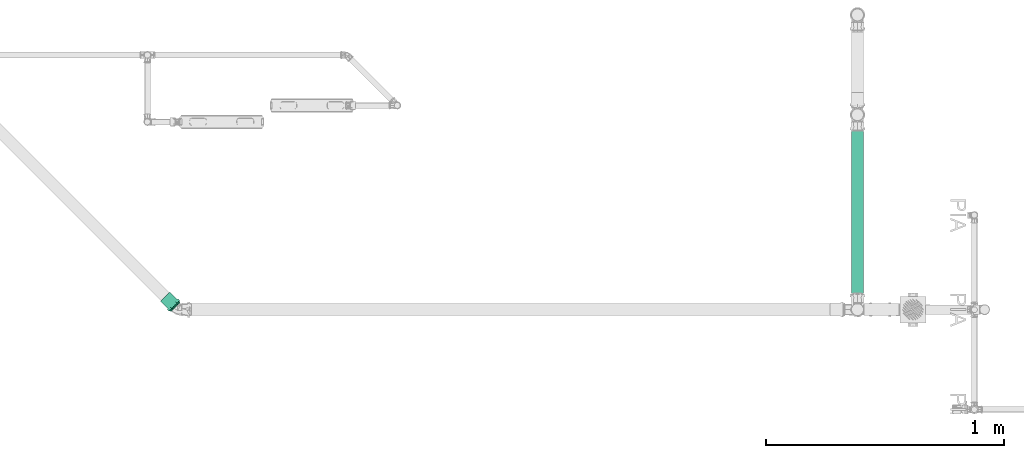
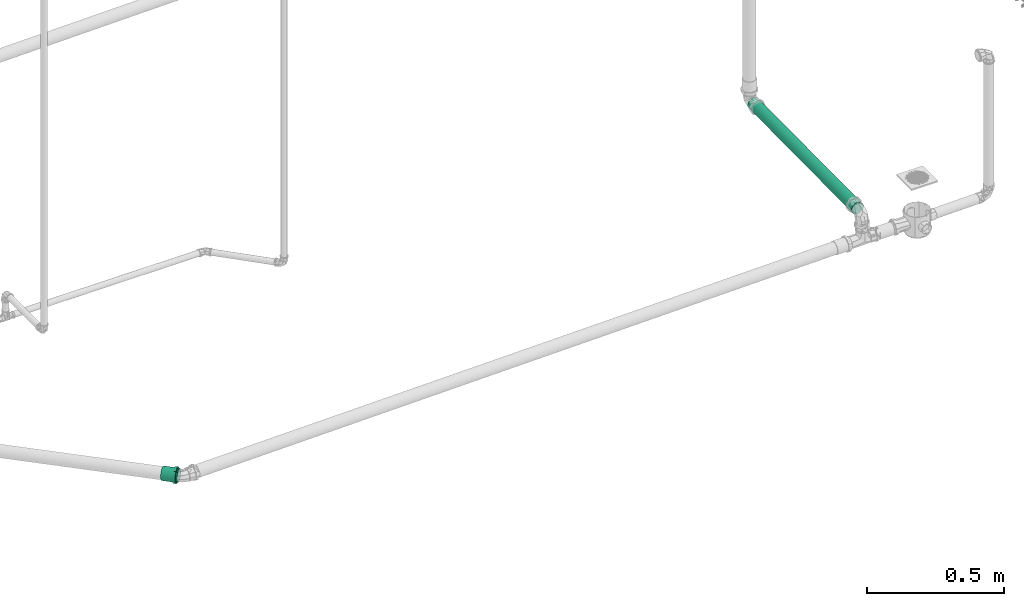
# One storey, part 110 of 589: 1 flow fitting, 1 flow segment.
"""IFC2X3 building model written with IfcOpenShell, lengths in millimetres."""

from ifc_helpers import new_model, entity, si_unit, converted_unit, derived_unit, direction, frame, frame_2d, origin, place, context, subcontext, project, spatial, circle, extrude, faceted_brep, source, transform, mapped, material, type_object, type_shapes, element, save


model = new_model("IFC2X3")

# Units and contexts
model_context = context("Model", 3, precision=0.01, world=origin(), true_north=direction((6.123031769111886e-17, 1.0)))
body_context = subcontext(model_context, "Body", "Model", "MODEL_VIEW")
ifc_project = project(units=[si_unit("LENGTHUNIT", "METRE", prefix="MILLI"), si_unit("AREAUNIT", "SQUARE_METRE"), si_unit("VOLUMEUNIT", "CUBIC_METRE"), converted_unit("PLANEANGLEUNIT", "DEGREE", entity("IfcRatioMeasure", 0.017453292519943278), si_unit("PLANEANGLEUNIT", "RADIAN"), dimensions=[0, 0, 0, 0, 0, 0, 0]), si_unit("MASSUNIT", "GRAM", prefix="KILO"), derived_unit("MASSDENSITYUNIT", [(si_unit("MASSUNIT", "GRAM", prefix="KILO"), 1), (si_unit("LENGTHUNIT", "METRE"), -3)]), derived_unit("IONCONCENTRATIONUNIT", [(si_unit("MASSUNIT", "GRAM", prefix="KILO"), 1), (si_unit("LENGTHUNIT", "METRE"), -3)]), derived_unit("MOMENTOFINERTIAUNIT", [(si_unit("LENGTHUNIT", "METRE"), 4)]), si_unit("TIMEUNIT", "SECOND"), si_unit("FREQUENCYUNIT", "HERTZ"), si_unit("THERMODYNAMICTEMPERATUREUNIT", "DEGREE_CELSIUS"), derived_unit("THERMALTRANSMITTANCEUNIT", [(si_unit("MASSUNIT", "GRAM", prefix="KILO"), 1), (si_unit("THERMODYNAMICTEMPERATUREUNIT", "KELVIN"), -1), (si_unit("TIMEUNIT", "SECOND"), -3)]), derived_unit("THERMALCONDUCTANCEUNIT", [(si_unit("MASSUNIT", "GRAM", prefix="KILO"), 1), (si_unit("THERMODYNAMICTEMPERATUREUNIT", "KELVIN"), -1), (si_unit("TIMEUNIT", "SECOND"), -3), (si_unit("LENGTHUNIT", "METRE"), 1)]), derived_unit("VOLUMETRICFLOWRATEUNIT", [(si_unit("LENGTHUNIT", "METRE"), 3), (si_unit("TIMEUNIT", "SECOND"), -1)]), derived_unit("MASSFLOWRATEUNIT", [(si_unit("MASSUNIT", "GRAM", prefix="KILO"), 1), (si_unit("TIMEUNIT", "SECOND"), -1)]), derived_unit("ROTATIONALFREQUENCYUNIT", [(si_unit("TIMEUNIT", "SECOND"), -1)]), si_unit("ELECTRICCURRENTUNIT", "AMPERE"), si_unit("ELECTRICVOLTAGEUNIT", "VOLT"), si_unit("POWERUNIT", "WATT"), si_unit("FORCEUNIT", "NEWTON", prefix="KILO"), si_unit("ILLUMINANCEUNIT", "LUX"), si_unit("LUMINOUSFLUXUNIT", "LUMEN"), si_unit("LUMINOUSINTENSITYUNIT", "CANDELA"), derived_unit("USERDEFINED", [(si_unit("MASSUNIT", "GRAM", prefix="KILO"), -1), (si_unit("LENGTHUNIT", "METRE"), -2), (si_unit("TIMEUNIT", "SECOND"), 3), (si_unit("LUMINOUSFLUXUNIT", "LUMEN"), 1)]), derived_unit("USERDEFINED", [(si_unit("MASSUNIT", "GRAM", prefix="KILO"), 1), (si_unit("TIMEUNIT", "SECOND"), -3), (si_unit("LENGTHUNIT", "METRE"), 3), (si_unit("ELECTRICCURRENTUNIT", "AMPERE"), -2)]), derived_unit("SOUNDPOWERUNIT", [(si_unit("MASSUNIT", "GRAM", prefix="KILO"), 1), (si_unit("TIMEUNIT", "SECOND"), -3), (si_unit("LENGTHUNIT", "METRE"), 2)]), derived_unit("SOUNDPRESSUREUNIT", [(si_unit("MASSUNIT", "GRAM", prefix="KILO"), 1), (si_unit("LENGTHUNIT", "METRE"), -1), (si_unit("TIMEUNIT", "SECOND"), -2)]), derived_unit("LINEARVELOCITYUNIT", [(si_unit("LENGTHUNIT", "METRE"), 1), (si_unit("TIMEUNIT", "SECOND"), -1)]), si_unit("PRESSUREUNIT", "PASCAL"), derived_unit("USERDEFINED", [(si_unit("MASSUNIT", "GRAM", prefix="KILO"), 1), (si_unit("LENGTHUNIT", "METRE"), -2), (si_unit("TIMEUNIT", "SECOND"), -2)]), derived_unit("LINEARFORCEUNIT", [(si_unit("MASSUNIT", "GRAM", prefix="KILO"), 1), (si_unit("TIMEUNIT", "SECOND"), -2)]), derived_unit("PLANARFORCEUNIT", [(si_unit("MASSUNIT", "GRAM", prefix="KILO"), 1), (si_unit("LENGTHUNIT", "METRE"), -1), (si_unit("TIMEUNIT", "SECOND"), -2)]), derived_unit("SPECIFICHEATCAPACITYUNIT", [(si_unit("THERMODYNAMICTEMPERATUREUNIT", "KELVIN"), -1), (si_unit("LENGTHUNIT", "METRE"), 2), (si_unit("TIMEUNIT", "SECOND"), -2)]), derived_unit("HEATINGVALUEUNIT", [(si_unit("LENGTHUNIT", "METRE"), 2), (si_unit("TIMEUNIT", "SECOND"), -2)]), derived_unit("VAPORPERMEABILITYUNIT", [(si_unit("LENGTHUNIT", "METRE"), -1), (si_unit("TIMEUNIT", "SECOND"), 1)]), derived_unit("DYNAMICVISCOSITYUNIT", [(si_unit("MASSUNIT", "GRAM", prefix="KILO"), 1), (si_unit("TIMEUNIT", "SECOND"), -1), (si_unit("LENGTHUNIT", "METRE"), -1)]), derived_unit("THERMALEXPANSIONCOEFFICIENTUNIT", [(si_unit("THERMODYNAMICTEMPERATUREUNIT", "KELVIN"), -1)]), derived_unit("MODULUSOFELASTICITYUNIT", [(si_unit("MASSUNIT", "GRAM", prefix="KILO"), 1), (si_unit("LENGTHUNIT", "METRE"), -1), (si_unit("TIMEUNIT", "SECOND"), -2)]), derived_unit("ISOTHERMALMOISTURECAPACITYUNIT", [(si_unit("LENGTHUNIT", "METRE"), 3), (si_unit("MASSUNIT", "GRAM", prefix="KILO"), -1)]), derived_unit("MOISTUREDIFFUSIVITYUNIT", [(si_unit("TIMEUNIT", "SECOND"), -1), (si_unit("LENGTHUNIT", "METRE"), 2)])], contexts=[model_context])

# Site, building, storey
site_placement = place(None, origin())
site = spatial("IfcSite", under=ifc_project, at=site_placement, Name="Default", CompositionType="ELEMENT")
building_placement = place(site_placement, origin())
building = spatial("IfcBuilding", under=site, at=building_placement, CompositionType="ELEMENT")
storey_placement = place(building_placement, frame((0.0, 0.0, 100.0)))
storey = spatial("IfcBuildingStorey", under=building, at=storey_placement, Name="TÉRREO", CompositionType="ELEMENT", Elevation=100.0)

# Flow segment
pipe_segment_type = type_object("IfcPipeSegmentType", Name="Tipos de tubos:PVC Esgoto Série Normal", PredefinedType="NOTDEFINED")
flow_segment_placement = place(storey_placement, origin())
element("IfcFlowSegment", 1, at=flow_segment_placement, inside=storey, type_object=pipe_segment_type, Name="Tipos de tubos:PVC Esgoto Série Normal", ObjectType="Tipos de tubos:PVC Esgoto Série Normal", context=body_context, shape_type="SweptSolid", body=[
    extrude(circle(Radius=25.0, at=frame_2d((0.0, -2.402491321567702e-14), x_axis=(1.0, 0.0))), frame((2699.4844981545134, 728.6687605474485, -74.69060246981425), z_axis=(0.0, 0.9999500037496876, 0.009999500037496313), x_axis=(1.0, 0.0, 0.0)), (0.0, 0.0, 1.0), 758.1583990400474),
])

# Flow fitting
ifc_material = material(Name="PVC Série Normal")
pipe_fitting_type = type_object("IfcPipeFittingType", Name="PVC Esgoto_Luva Simples para Conexão_Rodrigo MEP:Standard", PredefinedType="NOTDEFINED", material=ifc_material)
shared_shape = source(origin(), body_context, "Body", "Brep", [
    faceted_brep([(16.599999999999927, 15.900000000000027, -27.53960784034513), (16.599999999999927, 22.485995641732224, -22.485995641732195), (16.599999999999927, 13.599999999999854, -23.555890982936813), (16.599999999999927, 7.039878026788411, -26.273182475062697), (16.599999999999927, 8.2304456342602, -30.71644127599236), (16.599999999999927, 19.233304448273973, -19.233304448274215), (16.599999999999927, 27.539607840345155, -15.899999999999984), (16.599999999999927, 23.55589098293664, -13.600000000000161), (16.599999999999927, 26.273182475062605, -7.03987802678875), (16.599999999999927, 30.716441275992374, -8.230445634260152), (16.599999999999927, 27.2, 0.0), (16.599999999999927, 31.8, 0.0), (16.599999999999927, 26.273182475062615, 7.0398780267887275), (16.599999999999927, 30.71644127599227, 8.23044563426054), (16.599999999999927, 23.555890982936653, 13.60000000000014), (16.599999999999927, 27.539607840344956, 15.900000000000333), (16.599999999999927, 19.233304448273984, 19.2333044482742), (16.599999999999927, 22.485995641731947, 22.48599564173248), (16.599999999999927, 13.599999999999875, 23.555890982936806), (16.599999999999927, 15.899999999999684, 27.53960784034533), (16.599999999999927, 7.039878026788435, 26.27318247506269), (16.599999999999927, 8.230445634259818, 30.716441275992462), (16.599999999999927, 0.0, 27.2), (16.599999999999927, 0.0, 31.8), (16.599999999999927, -7.039878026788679, 26.273182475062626), (16.599999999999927, -8.230445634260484, 30.716441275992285), (16.599999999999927, -13.600000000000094, 23.555890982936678), (16.599999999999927, -15.900000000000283, 27.53960784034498), (16.599999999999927, -19.23330444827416, 19.233304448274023), (16.599999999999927, -22.485995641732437, 22.48599564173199), (16.599999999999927, -23.55589098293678, 13.59999999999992), (16.599999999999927, -27.539607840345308, 15.899999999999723), (16.599999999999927, -30.71644127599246, 8.230445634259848), (16.599999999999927, -26.273182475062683, 7.039878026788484), (16.599999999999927, -31.8, 0.0), (16.599999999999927, -27.2, 0.0), (16.599999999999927, -30.71644127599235, -8.23044563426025), (16.599999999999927, -26.273182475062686, -7.03987802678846), (16.599999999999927, -27.53960784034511, -15.90000000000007), (16.599999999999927, -23.55589098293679, -13.599999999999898), (16.599999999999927, -22.485995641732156, -22.485995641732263), (16.599999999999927, -19.233304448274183, -19.233304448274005), (16.599999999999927, -15.899999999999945, -27.53960784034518), (16.599999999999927, -13.600000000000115, -23.555890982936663), (16.599999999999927, -8.230445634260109, -30.716441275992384), (16.599999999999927, -7.039878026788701, -26.273182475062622), (16.599999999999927, 0.0, -31.8), (16.599999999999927, 0.0, -27.2), (6.500000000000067, -10.708108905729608, 29.429219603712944), (6.500000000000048, -24.359073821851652, 20.44200387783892), (6.500000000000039, -27.120498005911, 15.6595386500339), (6.50000000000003, -29.881922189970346, 10.877073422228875), (6.500000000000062, -15.89769721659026, 27.540937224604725), (6.500000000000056, -20.128385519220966, 23.991470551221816), (6.50000000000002, -30.840961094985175, 5.438536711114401), (6.5000000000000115, -31.8, 0.0), (6.50000000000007, -5.518520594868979, 31.317501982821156), (6.500000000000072, 5.526376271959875, 31.316116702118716), (6.50000000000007, 0.00392783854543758, 31.316809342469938), (6.500000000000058, 20.134403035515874, 23.986420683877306), (6.500000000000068, 10.715490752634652, 29.42653259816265), (6.500000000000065, 15.904605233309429, 27.536948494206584), (6.500000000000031, 29.8846497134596, 10.869577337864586), (6.500000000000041, 27.12442527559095, 15.652735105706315), (6.5000000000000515, 24.364200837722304, 20.435892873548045), (6.5000000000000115, 31.8, 0.0), (6.499999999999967, 24.364200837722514, -20.435892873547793), (6.499999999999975, 27.12442527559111, -15.652735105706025), (6.499999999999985, 29.884649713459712, -10.869577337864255), (6.4999999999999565, 15.904605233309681, -27.53694849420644), (6.499999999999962, 20.134403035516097, -23.986420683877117), (6.499999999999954, 10.715490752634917, -29.42653259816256), (6.499999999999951, 5.526376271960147, -31.31611670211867), (6.499999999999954, -5.518520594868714, -31.317501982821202), (6.499999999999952, 0.003927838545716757, -31.316809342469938), (6.499999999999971, -20.128385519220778, -23.99147055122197), (6.499999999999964, -15.897697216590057, -27.54093722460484), (6.499999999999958, -10.70810890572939, -29.42921960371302), (6.499999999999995, -29.881922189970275, -10.877073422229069), (6.499999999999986, -27.12049800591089, -15.659538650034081), (6.499999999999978, -24.359073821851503, -20.442003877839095), (6.500000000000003, -30.840961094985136, -5.438536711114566), (6.499999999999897, -30.696173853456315, -6.259599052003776), (62.0, 13.600000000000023, -23.55589098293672), (62.0, 19.233304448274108, -19.23330444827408), (62.0, 12.499999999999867, -21.650635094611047), (62.0, 6.470476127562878, -24.14814565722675), (62.0, 7.039878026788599, -26.273182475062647), (62.0, 17.677669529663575, -17.677669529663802), (62.0, 23.55589098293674, -13.599999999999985), (62.0, 21.65063509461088, -12.50000000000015), (62.0, 24.148145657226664, -6.470476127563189), (62.0, 26.27318247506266, -7.039878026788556), (62.0, 25.0, 0.0), (62.0, 27.2, 0.0), (62.0, 24.148145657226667, 6.4704761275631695), (62.0, 26.273182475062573, 7.03987802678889), (62.0, 21.650635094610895, 12.500000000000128), (62.0, 23.555890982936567, 13.600000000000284), (62.0, 17.67766952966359, 17.67766952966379), (62.0, 19.233304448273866, 19.233304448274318), (62.0, 12.499999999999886, 21.650635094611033), (62.0, 13.59999999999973, 23.55589098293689), (62.0, 6.4704761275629, 24.14814565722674), (62.0, 7.039878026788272, 26.273182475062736), (62.0, 0.0, 25.0), (62.0, 0.0, 27.2), (62.0, -6.470476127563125, 24.148145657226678), (62.0, -7.039878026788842, 26.273182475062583), (62.0, -12.500000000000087, 21.650635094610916), (62.0, -13.600000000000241, 23.555890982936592), (62.0, -17.677669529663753, 17.677669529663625), (62.0, -19.233304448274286, 19.2333044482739), (62.0, -21.65063509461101, 12.499999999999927), (62.0, -23.555890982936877, 13.599999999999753), (62.0, -26.27318247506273, 7.039878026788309), (62.0, -24.14814565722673, 6.470476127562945), (62.0, -27.2, 0.0), (62.0, -25.0, 0.0), (62.0, -26.27318247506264, -7.0398780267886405), (62.0, -24.148145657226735, -6.470476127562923), (62.0, -23.5558909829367, -13.600000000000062), (62.0, -21.650635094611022, -12.499999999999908), (62.0, -19.233304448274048, -19.233304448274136), (62.0, -17.67766952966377, -17.677669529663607), (62.0, -13.599999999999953, -23.555890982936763), (62.0, -12.500000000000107, -21.650635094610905), (62.0, -7.039878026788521, -26.27318247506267), (62.0, -6.470476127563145, -24.148145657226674), (62.0, 0.0, -27.2), (62.0, 0.0, -25.0), (0.0, 12.499999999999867, -21.650635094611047), (0.0, 19.233304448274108, -19.23330444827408), (0.0, 13.600000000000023, -23.55589098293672), (0.0, 6.470476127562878, -24.14814565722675), (0.0, 17.677669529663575, -17.677669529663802), (0.0, 23.55589098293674, -13.599999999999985), (0.0, 21.65063509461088, -12.50000000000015), (0.0, 24.148145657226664, -6.470476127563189), (0.0, 26.27318247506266, -7.039878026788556), (0.0, 25.0, 0.0), (0.0, 27.2, 0.0), (0.0, 24.148145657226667, 6.4704761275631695), (0.0, 26.273182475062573, 7.03987802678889), (0.0, 21.650635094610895, 12.500000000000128), (0.0, 23.555890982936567, 13.600000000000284), (0.0, 17.67766952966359, 17.67766952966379), (0.0, 19.233304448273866, 19.233304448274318), (0.0, 12.499999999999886, 21.650635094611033), (0.0, 13.59999999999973, 23.55589098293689), (0.0, 6.4704761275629, 24.14814565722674), (0.0, 7.039878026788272, 26.273182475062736), (0.0, 0.0, 25.0), (0.0, 0.0, 27.2), (0.0, -6.470476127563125, 24.148145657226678), (0.0, -7.039878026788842, 26.273182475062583), (0.0, -12.500000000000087, 21.650635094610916), (0.0, -13.600000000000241, 23.555890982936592), (0.0, -17.677669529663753, 17.677669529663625), (0.0, -19.233304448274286, 19.2333044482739), (0.0, -21.65063509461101, 12.499999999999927), (0.0, -23.555890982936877, 13.599999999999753), (0.0, -26.27318247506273, 7.039878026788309), (0.0, -24.14814565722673, 6.470476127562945), (0.0, -27.2, 0.0), (0.0, -25.0, 0.0), (0.0, -26.27318247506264, -7.0398780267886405), (0.0, -24.148145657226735, -6.470476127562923), (0.0, -23.5558909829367, -13.600000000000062), (0.0, -21.650635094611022, -12.499999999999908), (0.0, -19.233304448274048, -19.233304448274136), (0.0, -17.67766952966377, -17.677669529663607), (0.0, -13.599999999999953, -23.555890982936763), (0.0, -12.500000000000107, -21.650635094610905), (0.0, -7.039878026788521, -26.27318247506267), (0.0, -6.470476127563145, -24.148145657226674), (0.0, 0.0, -27.2), (0.0, 0.0, -25.0), (0.0, 7.039878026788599, -26.273182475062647), (5.300000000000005, -26.37968999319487, 4.651830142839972), (5.299999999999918, -26.25584678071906, 5.354122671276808), (5.300000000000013, -25.559379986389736, 9.303660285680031), (5.300000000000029, -20.835434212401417, 17.48498444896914), (5.300000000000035, -17.216732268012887, 20.521006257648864), (5.300000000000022, -23.19740709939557, 13.394322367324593), (5.3000000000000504, -4.720244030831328, 26.787297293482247), (5.300000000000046, -9.15913717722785, 25.172162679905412), (5.299999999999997, -27.2, 0.0), (5.300000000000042, -13.598030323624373, 23.557028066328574), (5.300000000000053, 9.165451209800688, 25.169864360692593), (5.300000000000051, 13.603939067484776, 23.55361632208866), (5.300000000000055, 4.7269633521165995, 26.786112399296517), (5.300000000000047, 17.221879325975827, 20.516686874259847), (5.300000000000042, 20.839819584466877, 17.479757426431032), (5.3000000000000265, 25.56171296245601, 9.297248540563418), (5.299999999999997, 27.2, 0.0), (5.3000000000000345, 23.20076627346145, 13.388502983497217), (5.300000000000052, 0.003359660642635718, 26.786704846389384), (5.299999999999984, 25.56171296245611, -9.29724854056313), (5.299999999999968, 20.839819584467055, -17.47975742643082), (5.2999999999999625, 17.22187932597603, -20.516686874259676), (5.299999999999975, 23.200766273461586, -13.388502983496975), (5.299999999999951, 4.726963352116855, -26.78611239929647), (5.2999999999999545, 9.165451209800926, -25.169864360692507), (5.299999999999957, 13.603939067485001, -23.553616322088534), (5.29999999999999, -26.379689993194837, -4.651830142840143), (5.299999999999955, -9.159137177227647, -25.17216267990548), (5.299999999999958, -13.5980303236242, -23.55702806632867), (5.299999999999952, -4.720244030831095, -26.787297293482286), (5.299999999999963, -17.216732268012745, -20.52100625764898), (5.299999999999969, -20.83543421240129, -17.484984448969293), (5.299999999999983, -25.559379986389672, -9.303660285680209), (5.299999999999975, -23.197407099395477, -13.394322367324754), (5.299999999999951, 0.003359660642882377, -26.78670484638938), (39.0, -25.0, 0.0), (39.0, 25.0, 0.0)], [[[0, 1, 2]], [[0, 2, 3]], [[3, 4, 0]], [[2, 1, 5]], [[6, 5, 1]], [[7, 5, 6]], [[8, 7, 6]], [[8, 6, 9]], [[8, 9, 10]], [[10, 9, 11]], [[12, 10, 11]], [[12, 11, 13]], [[14, 12, 13]], [[14, 13, 15]], [[16, 14, 15]], [[15, 17, 16]], [[17, 18, 16]], [[17, 19, 18]], [[18, 19, 20]], [[21, 20, 19]], [[20, 21, 22]], [[22, 21, 23]], [[22, 23, 24]], [[24, 23, 25]], [[24, 25, 26]], [[27, 26, 25]], [[27, 28, 26]], [[28, 27, 29]], [[30, 28, 29]], [[31, 30, 29]], [[32, 30, 31]], [[33, 30, 32]], [[33, 32, 34]], [[35, 33, 34]], [[36, 35, 34]], [[36, 37, 35]], [[37, 36, 38]], [[39, 37, 38]], [[39, 38, 40]], [[39, 40, 41]], [[40, 42, 41]], [[41, 42, 43]], [[43, 42, 44]], [[44, 45, 43]], [[46, 45, 44]], [[4, 47, 46]], [[46, 47, 45]], [[4, 3, 47]], [[48, 27, 25]], [[31, 29, 49]], [[31, 49, 50, 51]], [[52, 53, 27]], [[32, 51, 54]], [[54, 55, 34]], [[54, 34, 32]], [[25, 56, 48]], [[49, 29, 53]], [[23, 57, 58, 56]], [[59, 19, 17]], [[27, 53, 29]], [[48, 52, 27]], [[31, 51, 32]], [[57, 23, 21]], [[60, 19, 61]], [[15, 62, 63, 64]], [[19, 60, 21]], [[15, 13, 62]], [[17, 64, 59]], [[57, 21, 60]], [[23, 56, 25]], [[15, 64, 17]], [[13, 65, 62]], [[13, 11, 65]], [[59, 61, 19]], [[65, 11, 9]], [[6, 1, 66]], [[6, 66, 67, 68]], [[69, 70, 0]], [[68, 65, 9]], [[71, 69, 0]], [[71, 0, 4]], [[4, 72, 71]], [[66, 1, 70]], [[46, 73, 74, 72]], [[75, 76, 42]], [[0, 70, 1]], [[75, 42, 40]], [[6, 68, 9]], [[73, 46, 44]], [[77, 42, 76]], [[38, 78, 79, 80]], [[42, 77, 44]], [[38, 36, 78]], [[40, 80, 75]], [[73, 44, 77]], [[46, 72, 4]], [[38, 80, 40]], [[36, 81, 82, 78]], [[55, 81, 34]], [[34, 81, 36]], [[83, 84, 85]], [[83, 85, 86]], [[86, 87, 83]], [[85, 84, 88]], [[89, 88, 84]], [[88, 89, 90]], [[90, 89, 91]], [[92, 91, 89]], [[92, 93, 91]], [[93, 92, 94]], [[95, 93, 94]], [[94, 96, 95]], [[95, 96, 97]], [[98, 97, 96]], [[97, 98, 99]], [[99, 98, 100]], [[101, 99, 100]], [[100, 102, 101]], [[101, 102, 103]], [[104, 103, 102]], [[103, 104, 105]], [[105, 104, 106]], [[105, 106, 107]], [[107, 106, 108]], [[107, 108, 109]], [[110, 109, 108]], [[110, 111, 109]], [[111, 110, 112]], [[112, 113, 111]], [[114, 113, 112]], [[113, 114, 115]], [[115, 116, 113]], [[117, 116, 115]], [[117, 118, 116]], [[119, 118, 117]], [[119, 120, 118]], [[120, 119, 121]], [[121, 122, 120]], [[122, 121, 123]], [[122, 123, 124]], [[123, 125, 124]], [[124, 125, 126]], [[126, 125, 127]], [[127, 128, 126]], [[129, 128, 127]], [[87, 130, 129]], [[129, 130, 128]], [[87, 86, 130]], [[131, 132, 133]], [[134, 131, 133]], [[135, 132, 131]], [[132, 135, 136]], [[137, 136, 135]], [[138, 136, 137]], [[136, 138, 139]], [[138, 140, 139]], [[141, 139, 140]], [[141, 140, 142]], [[142, 143, 141]], [[144, 143, 142]], [[143, 144, 145]], [[146, 145, 144]], [[147, 145, 146]], [[147, 146, 148]], [[148, 149, 147]], [[150, 149, 148]], [[149, 150, 151]], [[152, 151, 150]], [[153, 151, 152]], [[154, 153, 152]], [[155, 153, 154]], [[156, 155, 154]], [[155, 156, 157]], [[156, 158, 157]], [[159, 157, 158]], [[158, 160, 159]], [[159, 160, 161]], [[162, 161, 160]], [[160, 163, 162]], [[162, 163, 164]], [[163, 165, 164]], [[164, 165, 166]], [[165, 167, 166]], [[168, 166, 167]], [[167, 169, 168]], [[170, 168, 169]], [[171, 170, 169]], [[171, 172, 170]], [[173, 172, 171]], [[174, 172, 173]], [[173, 175, 174]], [[174, 175, 176]], [[175, 177, 176]], [[177, 134, 178]], [[176, 177, 178]], [[133, 178, 134]], [[162, 179, 180, 181]], [[159, 182, 183]], [[182, 161, 181, 184]], [[185, 155, 186]], [[161, 162, 181]], [[187, 179, 164]], [[183, 188, 157]], [[183, 157, 159]], [[161, 182, 159]], [[189, 190, 149]], [[189, 149, 151]], [[157, 188, 186]], [[157, 186, 155]], [[153, 155, 185]], [[164, 179, 162]], [[151, 191, 189]], [[147, 192, 193]], [[143, 194, 195]], [[194, 145, 193, 196]], [[143, 195, 141]], [[10, 12, 96, 94]], [[149, 192, 147]], [[153, 185, 197, 191]], [[153, 191, 151]], [[145, 147, 193]], [[190, 192, 149]], [[145, 194, 143]], [[139, 195, 198]], [[132, 199, 200]], [[199, 136, 198, 201]], [[202, 178, 203]], [[136, 139, 198]], [[139, 141, 195]], [[92, 8, 10, 94]], [[133, 203, 178]], [[200, 204, 133]], [[136, 199, 132]], [[205, 164, 166]], [[206, 207, 172]], [[133, 204, 203]], [[206, 172, 174]], [[176, 178, 202]], [[200, 133, 132]], [[174, 208, 206]], [[170, 209, 210]], [[166, 211, 205]], [[211, 168, 210, 212]], [[168, 211, 166]], [[172, 209, 170]], [[176, 202, 213, 208]], [[176, 208, 174]], [[168, 170, 210]], [[207, 209, 172]], [[205, 187, 164]], [[116, 118, 214, 165, 163]], [[156, 109, 111, 158]], [[111, 113, 160, 158]], [[113, 116, 163, 160]], [[107, 109, 156, 154]], [[154, 152, 105, 107]], [[103, 105, 152, 150]], [[103, 150, 148, 101]], [[142, 95, 97, 144]], [[97, 99, 146, 144]], [[99, 101, 148, 146]], [[93, 95, 142, 140, 215]], [[215, 140, 138, 91, 93]], [[135, 131, 85, 88]], [[90, 91, 138, 137]], [[90, 137, 135, 88]], [[86, 85, 131, 134]], [[134, 177, 130, 86]], [[128, 130, 177, 175]], [[128, 175, 173, 126]], [[167, 120, 122, 169]], [[122, 124, 171, 169]], [[124, 126, 173, 171]], [[118, 120, 167, 165, 214]], [[211, 78, 82, 81, 55, 187, 205]], [[79, 78, 211, 212, 210, 80]], [[75, 80, 210, 209, 207, 76]], [[207, 206, 208, 73, 77, 76]], [[213, 202, 72, 74, 73, 208]], [[203, 204, 69, 71, 72, 202]], [[198, 195, 65, 68]], [[199, 201, 198, 68, 67, 66]], [[204, 200, 199, 66, 70, 69]], [[195, 194, 62, 65]], [[197, 185, 56, 58, 57, 191]], [[63, 62, 194, 196, 193, 64]], [[57, 60, 61, 190, 189, 191]], [[193, 192, 190, 61, 59, 64]], [[48, 56, 185, 186, 188, 52]], [[187, 55, 54, 51, 181, 180, 179]], [[182, 184, 181, 51, 50, 49]], [[188, 183, 182, 49, 53, 52]], [[30, 33, 115, 114]], [[117, 115, 33, 35]], [[26, 28, 112, 110]], [[114, 112, 28, 30]], [[24, 26, 110, 108]], [[108, 106, 22, 24]], [[18, 20, 104, 102]], [[100, 16, 18, 102]], [[12, 14, 98, 96]], [[100, 98, 14, 16]], [[104, 20, 22, 106]], [[89, 7, 8, 92]], [[83, 87, 3, 2]], [[7, 89, 84, 5]], [[83, 2, 5, 84]], [[87, 129, 47, 3]], [[43, 45, 127, 125]], [[123, 41, 43, 125]], [[37, 39, 121, 119]], [[123, 121, 39, 41]], [[35, 37, 119, 117]], [[127, 45, 47, 129]]]),
])
type_shapes(pipe_fitting_type, [shared_shape])
flow_fitting_placement = place(storey_placement, frame((-169.83183319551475, 709.0171453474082, -248.3825577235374), z_axis=(-0.0199953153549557, 0.00828233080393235, 0.9997657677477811), x_axis=(-0.706965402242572, 0.7069654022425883, -0.019996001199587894)))
element("IfcFlowFitting", 2, at=flow_fitting_placement, inside=storey, type_object=pipe_fitting_type, material=ifc_material, Name="PVC Esgoto_Luva Simples para Conexão_Rodrigo MEP:Standard", ObjectType="PVC Esgoto_Luva Simples para Conexão_Rodrigo MEP:Standard", context=body_context, shape_type="MappedRepresentation", body=[
    mapped(shared_shape, transform((0.0, 0.0, 0.0), scale=1.0)),
])

save(model, "model.ifc")
